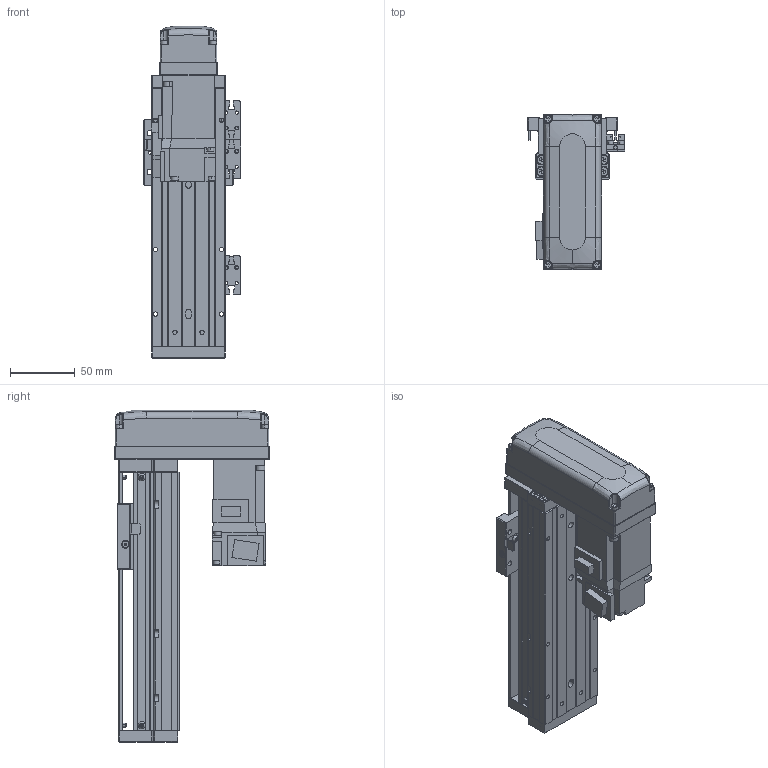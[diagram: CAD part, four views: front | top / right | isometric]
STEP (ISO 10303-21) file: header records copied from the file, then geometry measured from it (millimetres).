
FILE_DESCRIPTION (( 'STEP AP203' ), '1' );
FILE_NAME ('KTHA50-100-BM-M10-C4L.step', '2022-03-19T07:10:28', ( '微软用户' ), ( '微软中国' ), 'SwSTEP 2.0', 'SolidWorks 2020', '' );
FILE_SCHEMA (( 'CONFIG_CONTROL_DESIGN' ));
Length unit declared in the file: millimetre
Products named in the file (18): CTHA60-033; KTHA50-004; GBT 70.1-M4×12; GBT 70.1-M3×15; KTHA50-005; CTHA60-016; KTHA50-100-BM-M10-C4L; GB¨uT 70.2-M3¡Á6_M3¡Á6; CTHA60-021; EE_SX911P_R; GBT 70.3-M3℅6; GBT77-2000 M3×3; HG-KR13（三菱）; KTHA50-001_200; GBT 70.1-M3℅6; CTHA50-015-2_CTHA60-015-2; KTHA50-002; CTHA60-017
Assembly tree (53 placements, depth 2):
  KTHA50-100-BM-M10-C4L
    KTHA50-001_200
    KTHA50-002
    KTHA50-004
    KTHA50-005
    GB¨uT 70.2-M3¡Á6_M3¡Á6  x6
    EE_SX911P_R  x3
    GBT77-2000 M3×3  x6
    GBT 70.1-M3℅6  x6
    CTHA60-017  x3
    GBT 70.1-M4×12  x10
    CTHA60-016  x2
    CTHA60-021  x2
    GBT 70.3-M3℅6  x4
    HG-KR13（三菱）
    CTHA50-015-2_CTHA60-015-2
    CTHA60-033
    GBT 70.1-M3×15  x4
Bounding box: 75.22 x 120 x 257 mm (x, y, z)
Volume: 712497.8 mm3; surface area: 176719.7 mm2
Topology: 56 solids, 56 shells, 2203 faces, 5183 edges, 3172 vertices
Faces by surface type: plane 1228, cylinder 532, cone 301, torus 100, bspline 26, sphere 16
Entity records: 36297 total; most frequent: CARTESIAN_POINT 6898, DIRECTION 5635, ORIENTED_EDGE 5378, EDGE_CURVE 2689, AXIS2_PLACEMENT_3D 1925, LINE 1785, VECTOR 1785, VERTEX_POINT 1686
